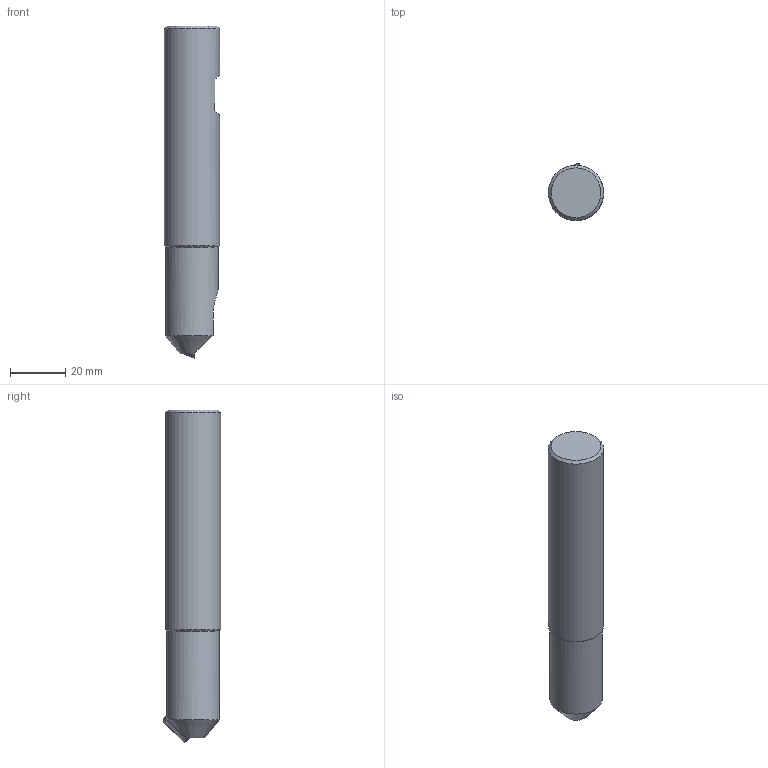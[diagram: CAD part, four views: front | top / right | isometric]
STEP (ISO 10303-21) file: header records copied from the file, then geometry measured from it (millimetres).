
FILE_DESCRIPTION(/* description */ (''),/* implementation_level */ '2;1');
FILE_NAME(/* name */ 'CE45-1107R-S20-HAAS.stp',/* time_stamp */ '2021-09-24T12:09:59+09:00',/* author */ (''),/* organization */ (''),/* preprocessor_version */ 'ST-DEVELOPER v11',/* originating_system */ 'SIEMENS UGS NX 6.0',/* authorisation */ '');
FILE_SCHEMA (('CONFIG_CONTROL_DESIGN'));
Length unit declared in the file: millimetre
Products named in the file (1): userF260wybv
Bounding box: 20 x 20.86 x 120 mm (x, y, z)
Volume: 33146.6 mm3; surface area: 8084.5 mm2
Topology: 2 solids, 2 shells, 56 faces, 127 edges, 76 vertices
Faces by surface type: plane 29, bspline 12, cylinder 7, cone 7, torus 1
Full cylindrical faces by diameter (mm): 6.2 x1, 19 x1, 20 x1
Entity records: 1711 total; most frequent: CARTESIAN_POINT 493, ORIENTED_EDGE 238, DIRECTION 222, EDGE_CURVE 119, AXIS2_PLACEMENT_3D 82, VERTEX_POINT 73, EDGE_LOOP 64, LINE 58
